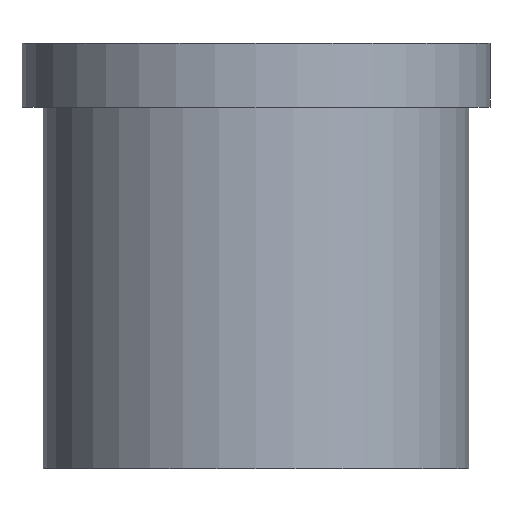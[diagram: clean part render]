
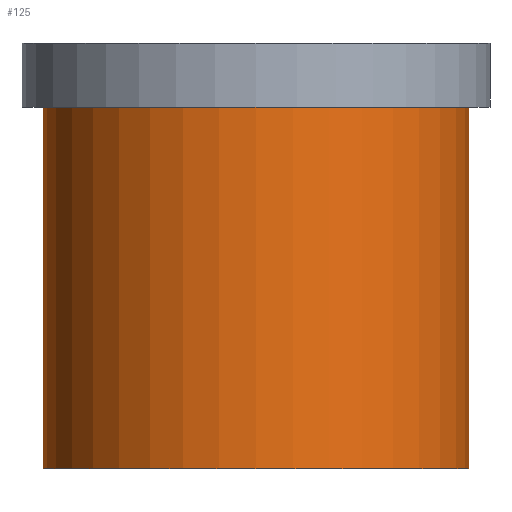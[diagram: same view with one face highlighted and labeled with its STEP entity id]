
A CAD part, left-side view. The second image highlights one B-rep face of the part: STEP entity #125.
In plain terms, the highlighted cylindrical face has radius 10 mm (diameter 20 mm), a partial arc.
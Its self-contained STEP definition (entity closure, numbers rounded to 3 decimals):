
#99=CYLINDRICAL_SURFACE('',#243,10.);
#105=FACE_OUTER_BOUND('',#145,.T.);
#111=LINE('',#324,#117);
#112=LINE('',#328,#118);
#117=VECTOR('',#279,1.);
#118=VECTOR('',#282,1.);
#125=ADVANCED_FACE('',(#105),#99,.T.);
#145=EDGE_LOOP('',(#167,#168,#169,#170));
#167=ORIENTED_EDGE('',*,*,#209,.T.);
#168=ORIENTED_EDGE('',*,*,#210,.F.);
#169=ORIENTED_EDGE('',*,*,#211,.F.);
#170=ORIENTED_EDGE('',*,*,#207,.T.);
#193=VERTEX_POINT('',#320);
#194=VERTEX_POINT('',#321);
#195=VERTEX_POINT('',#325);
#196=VERTEX_POINT('',#327);
#207=EDGE_CURVE('',#193,#194,#223,.T.);
#209=EDGE_CURVE('',#194,#195,#111,.T.);
#210=EDGE_CURVE('',#196,#195,#225,.T.);
#211=EDGE_CURVE('',#193,#196,#112,.T.);
#223=CIRCLE('',#239,10.);
#225=CIRCLE('',#242,10.);
#239=AXIS2_PLACEMENT_3D('',#319,#273,#274);
#242=AXIS2_PLACEMENT_3D('',#326,#280,#281);
#243=AXIS2_PLACEMENT_3D('',#329,#283,#284);
#273=DIRECTION('',(0.,0.,-1.));
#274=DIRECTION('',(1.,0.,0.));
#279=DIRECTION('',(0.,0.,-1.));
#280=DIRECTION('',(0.,0.,-1.));
#281=DIRECTION('',(1.,0.,0.));
#282=DIRECTION('',(0.,0.,-1.));
#283=DIRECTION('',(0.,0.,-1.));
#284=DIRECTION('',(-1.,0.,0.));
#319=CARTESIAN_POINT('',(0.,0.,0.));
#320=CARTESIAN_POINT('',(0.,-10.,0.));
#321=CARTESIAN_POINT('',(0.,10.,0.));
#324=CARTESIAN_POINT('',(0.,10.,-17.));
#325=CARTESIAN_POINT('',(0.,10.,-17.));
#326=CARTESIAN_POINT('',(0.,0.,-17.));
#327=CARTESIAN_POINT('',(0.,-10.,-17.));
#328=CARTESIAN_POINT('',(0.,-10.,-17.));
#329=CARTESIAN_POINT('',(0.,0.,0.));
